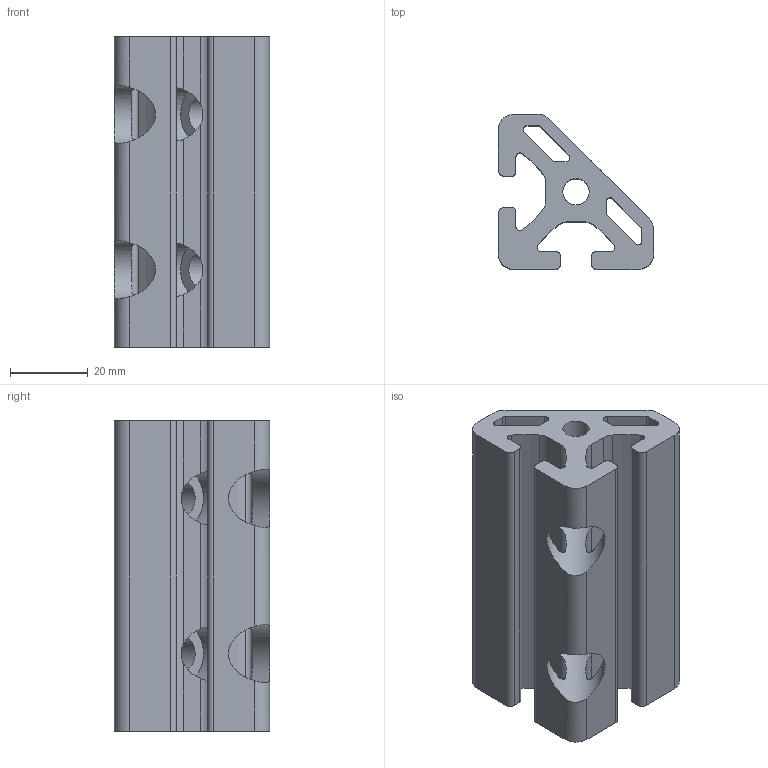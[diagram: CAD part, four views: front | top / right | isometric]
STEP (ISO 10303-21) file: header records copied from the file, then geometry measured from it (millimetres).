
FILE_DESCRIPTION (( 'STEP AP214' ), '1' );
FILE_NAME ('10618-01-0000-00_winkelelement_2_40x80_45g.STEP', '2024-09-18T12:43:18', ( '' ), ( '' ), 'SwSTEP 2.0', 'SolidWorks 2022', '' );
FILE_SCHEMA (( 'AUTOMOTIVE_DESIGN' ));
Length unit declared in the file: millimetre
Products named in the file (1): 10618-01-0000-00_winkelelement_2_40x80_45g
Bounding box: 40 x 40 x 80 mm (x, y, z)
Volume: 52201.3 mm3; surface area: 25406.8 mm2
Topology: 1 solids, 1 shells, 95 faces, 311 edges, 206 vertices
Faces by surface type: cylinder 56, plane 39
Full cylindrical faces by diameter (mm): 6.8 x3, 9 x2, 15 x2
Entity records: 3792 total; most frequent: CARTESIAN_POINT 1224, ORIENTED_EDGE 572, DIRECTION 488, EDGE_CURVE 286, VERTEX_POINT 192, AXIS2_PLACEMENT_3D 172, VECTOR 144, LINE 144
